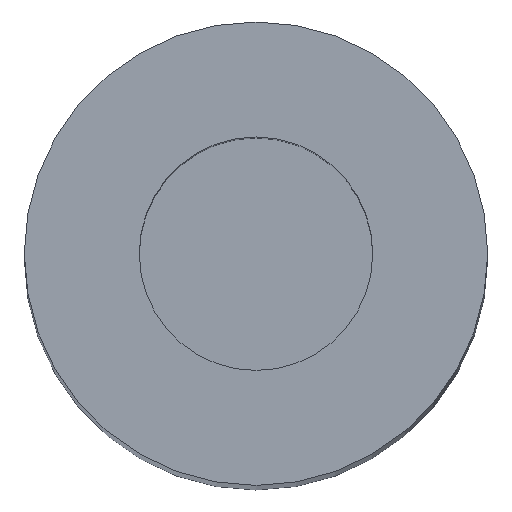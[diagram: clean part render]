
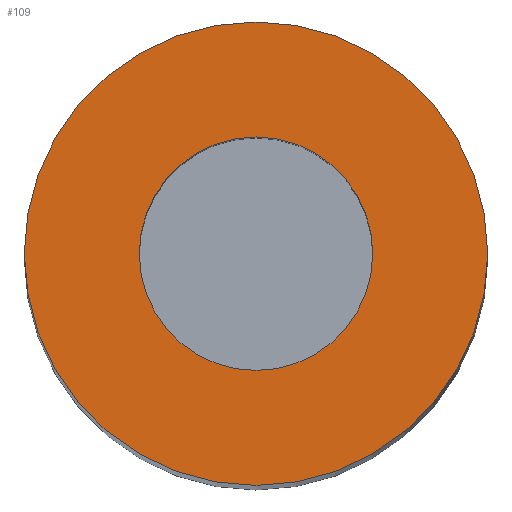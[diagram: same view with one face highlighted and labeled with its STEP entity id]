
A CAD part, top view. The second image highlights one B-rep face of the part: STEP entity #109.
In plain terms, the highlighted planar face has unit normal (0, 0, 1).
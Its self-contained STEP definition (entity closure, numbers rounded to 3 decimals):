
#24 = VERTEX_POINT('',#25);
#25 = CARTESIAN_POINT('',(0.794,0.,-2.65));
#32 = CYLINDRICAL_SURFACE('',#33,0.794);
#33 = AXIS2_PLACEMENT_3D('',#34,#35,#36);
#34 = CARTESIAN_POINT('',(0.,0.,-11.65));
#35 = DIRECTION('',(-0.,-0.,-1.));
#36 = DIRECTION('',(1.,0.,0.));
#51 = EDGE_CURVE('',#24,#24,#52,.T.);
#52 = SURFACE_CURVE('',#53,(#58,#65),.PCURVE_S1.);
#53 = CIRCLE('',#54,0.794);
#54 = AXIS2_PLACEMENT_3D('',#55,#56,#57);
#55 = CARTESIAN_POINT('',(0.,0.,-2.65));
#56 = DIRECTION('',(0.,0.,1.));
#57 = DIRECTION('',(1.,0.,0.));
#58 = PCURVE('',#32,#59);
#59 = DEFINITIONAL_REPRESENTATION('',(#60),#64);
#60 = LINE('',#61,#62);
#61 = CARTESIAN_POINT('',(-0.,-9.));
#62 = VECTOR('',#63,1.);
#63 = DIRECTION('',(-1.,0.));
#64 = ( GEOMETRIC_REPRESENTATION_CONTEXT(2) 
PARAMETRIC_REPRESENTATION_CONTEXT() REPRESENTATION_CONTEXT('2D SPACE',''
  ) );
#65 = PCURVE('',#66,#71);
#66 = PLANE('',#67);
#67 = AXIS2_PLACEMENT_3D('',#68,#69,#70);
#68 = CARTESIAN_POINT('',(0.,0.,-2.65)
  );
#69 = DIRECTION('',(0.,0.,1.));
#70 = DIRECTION('',(1.,0.,-0.));
#71 = DEFINITIONAL_REPRESENTATION('',(#72),#76);
#72 = CIRCLE('',#73,0.794);
#73 = AXIS2_PLACEMENT_2D('',#74,#75);
#74 = CARTESIAN_POINT('',(0.,0.));
#75 = DIRECTION('',(1.,0.));
#76 = ( GEOMETRIC_REPRESENTATION_CONTEXT(2) 
PARAMETRIC_REPRESENTATION_CONTEXT() REPRESENTATION_CONTEXT('2D SPACE',''
  ) );
#109 = ADVANCED_FACE('',(#110,#113),#66,.T.);
#110 = FACE_BOUND('',#111,.T.);
#111 = EDGE_LOOP('',(#112));
#112 = ORIENTED_EDGE('',*,*,#51,.T.);
#113 = FACE_BOUND('',#114,.T.);
#114 = EDGE_LOOP('',(#115));
#115 = ORIENTED_EDGE('',*,*,#116,.F.);
#116 = EDGE_CURVE('',#117,#117,#119,.T.);
#117 = VERTEX_POINT('',#118);
#118 = CARTESIAN_POINT('',(0.4,0.,-2.65));
#119 = SURFACE_CURVE('',#120,(#125,#132),.PCURVE_S1.);
#120 = CIRCLE('',#121,0.4);
#121 = AXIS2_PLACEMENT_3D('',#122,#123,#124);
#122 = CARTESIAN_POINT('',(0.,0.,-2.65));
#123 = DIRECTION('',(0.,0.,1.));
#124 = DIRECTION('',(1.,0.,0.));
#125 = PCURVE('',#66,#126);
#126 = DEFINITIONAL_REPRESENTATION('',(#127),#131);
#127 = CIRCLE('',#128,0.4);
#128 = AXIS2_PLACEMENT_2D('',#129,#130);
#129 = CARTESIAN_POINT('',(0.,0.));
#130 = DIRECTION('',(1.,0.));
#131 = ( GEOMETRIC_REPRESENTATION_CONTEXT(2) 
PARAMETRIC_REPRESENTATION_CONTEXT() REPRESENTATION_CONTEXT('2D SPACE',''
  ) );
#132 = PCURVE('',#133,#138);
#133 = CYLINDRICAL_SURFACE('',#134,0.4);
#134 = AXIS2_PLACEMENT_3D('',#135,#136,#137);
#135 = CARTESIAN_POINT('',(0.,0.,-4.65));
#136 = DIRECTION('',(-0.,-0.,-1.));
#137 = DIRECTION('',(1.,0.,0.));
#138 = DEFINITIONAL_REPRESENTATION('',(#139),#143);
#139 = LINE('',#140,#141);
#140 = CARTESIAN_POINT('',(-0.,-2.));
#141 = VECTOR('',#142,1.);
#142 = DIRECTION('',(-1.,0.));
#143 = ( GEOMETRIC_REPRESENTATION_CONTEXT(2) 
PARAMETRIC_REPRESENTATION_CONTEXT() REPRESENTATION_CONTEXT('2D SPACE',''
  ) );
